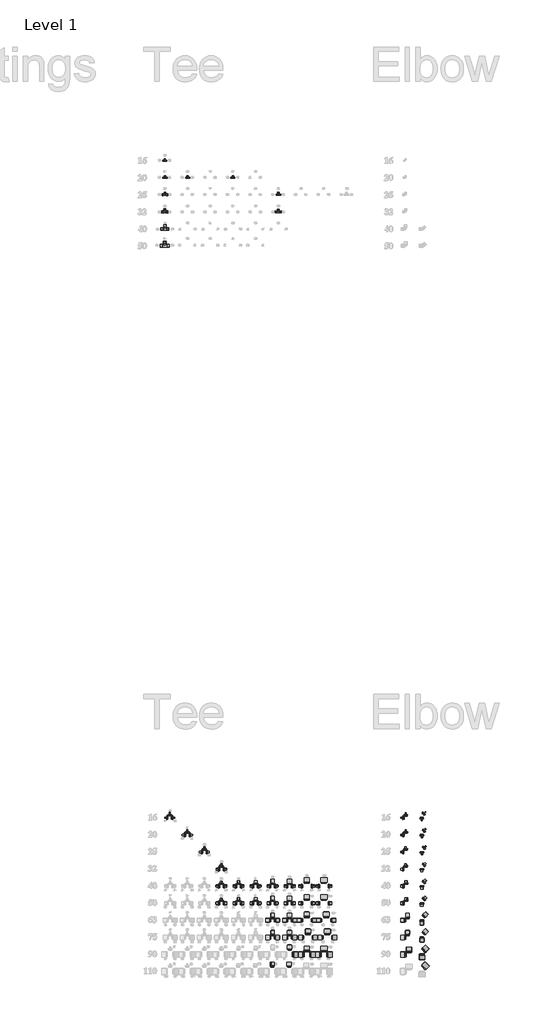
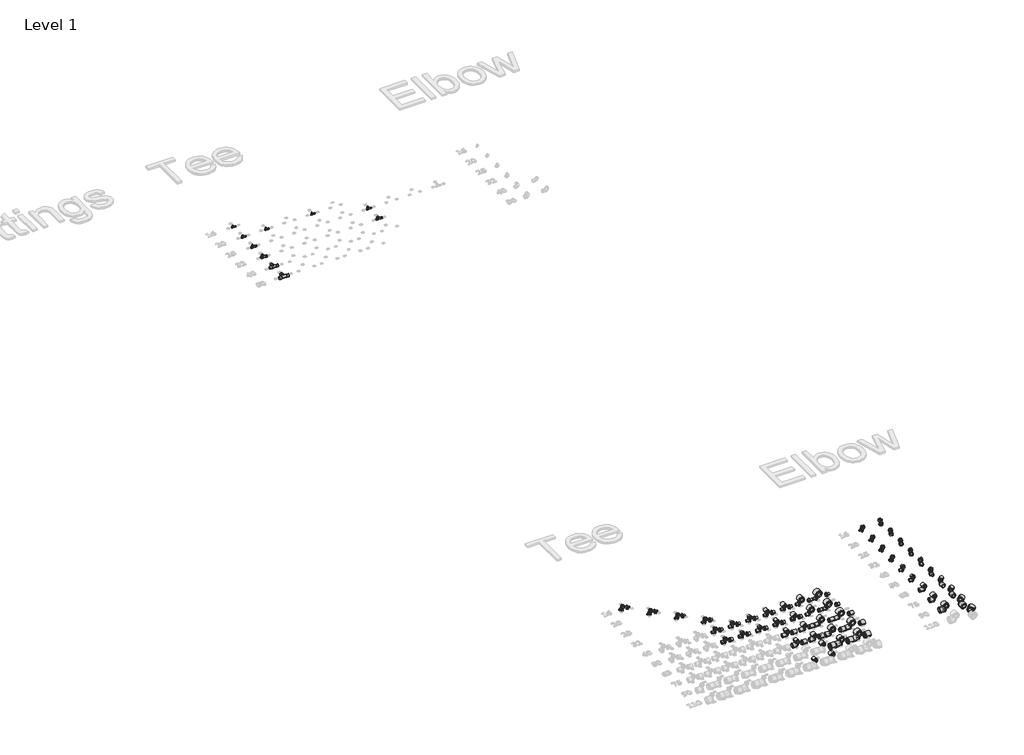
# One storey, part 3 of 57: 135 pipe fittings.
"""IFC4 building model written with IfcOpenShell, lengths in millimetres."""

from ifc_helpers import new_model, si_unit, origin, place, context, project, spatial, transform, mapped, element, save
from components import pipe_fitting_482c86fa, pipe_fitting_a59ca56d, pipe_fitting_b4fce3e0, pipe_fitting_d58233fc, pipe_fitting_b1de520c, pipe_fitting_6f6e23ca, pipe_fitting_bb4a2914, pipe_fitting_49668751, pipe_fitting_361ffb06, pipe_fitting_36832e7d, rs_adapter_8da40ca7, rs_adapter_b4bbd465, rs_adapter_f82712ed, rs_adapter_ef84fdb0, rs_adapter_c6cd646c, rs_adapter_ed761ce0, rs_adapter_634e7d73, rs_adapter_fc67200b, rs_adapter_b700a1d7, rs_adapter_1ad0a11d

model = new_model("IFC4")

# Units and contexts
model_context = context("Model", 3, world=origin())
ifc_project = project(units=[si_unit("LENGTHUNIT", "METRE", prefix="MILLI")], contexts=[model_context])

# Site, building, storey
site = spatial("IfcSite", under=ifc_project)
building = spatial("IfcBuilding", under=site)
storey = spatial("IfcBuildingStorey", under=building, Name="Level 1", Elevation=27.3876384)

# Pipe fittings
placement = place(None, origin())
pipe_fitting_shape = pipe_fitting_482c86fa(model_context)
element("IfcPipeFitting", 1, ObjectType="SuperPipe_Tee_SPressPlus : SuperPipe_Tee_SPressPlus", at=placement, inside=storey, context=model_context, shape_type="MappedRepresentation", body=[
    mapped(pipe_fitting_shape, transform((13172.0630476, 30195.9764109, 27.3876384), x_axis=(-1.0, 0.0, 0.0), y_axis=(0.0, -1.0, 0.0), z_axis=(0.0, 0.0, 1.0))),
])
pipe_fitting_2_shape = pipe_fitting_a59ca56d(model_context)
element("IfcPipeFitting", 2, ObjectType="SuperPipe_Tee_SPressPlus : SuperPipe_Tee_SPressPlus", at=placement, inside=storey, context=model_context, shape_type="MappedRepresentation", body=[
    mapped(pipe_fitting_2_shape, transform((13172.0630476, 29894.8846611, 27.3876384), x_axis=(-1.0, 0.0, 0.0), y_axis=(0.0, -1.0, 0.0), z_axis=(0.0, 0.0, 1.0))),
])
pipe_fitting_3_shape = pipe_fitting_b4fce3e0(model_context)
element("IfcPipeFitting", 3, ObjectType="SuperPipe_Tee_SPressPlus : SuperPipe_Tee_SPressPlus", at=placement, inside=storey, context=model_context, shape_type="MappedRepresentation", body=[
    mapped(pipe_fitting_3_shape, transform((13570.8130476, 29894.8846611, 27.3876384), x_axis=(-1.0, 0.0, 0.0), y_axis=(0.0, -1.0, 0.0), z_axis=(0.0, 0.0, 1.0))),
])
pipe_fitting_4_shape = pipe_fitting_d58233fc(model_context)
element("IfcPipeFitting", 4, ObjectType="SuperPipe_Tee_SPressPlus : SuperPipe_Tee_SPressPlus", at=placement, inside=storey, context=model_context, shape_type="MappedRepresentation", body=[
    mapped(pipe_fitting_4_shape, transform((14368.3130476, 29894.8846611, 27.3876384), x_axis=(-1.0, 0.0, 0.0), y_axis=(0.0, -1.0, 0.0), z_axis=(0.0, 0.0, 1.0))),
])
pipe_fitting_5_shape = pipe_fitting_b1de520c(model_context)
element("IfcPipeFitting", 5, ObjectType="SuperPipe_Tee_SPressPlus : SuperPipe_Tee_SPressPlus", at=placement, inside=storey, context=model_context, shape_type="MappedRepresentation", body=[
    mapped(pipe_fitting_5_shape, transform((13172.0630476, 29595.7013539, 27.3876384), x_axis=(-1.0, 0.0, 0.0), y_axis=(0.0, -1.0, 0.0), z_axis=(0.0, 0.0, 1.0))),
])
pipe_fitting_6_shape = pipe_fitting_6f6e23ca(model_context)
element("IfcPipeFitting", 6, ObjectType="SuperPipe_Tee_SPressPlus : SuperPipe_Tee_SPressPlus", at=placement, inside=storey, context=model_context, shape_type="MappedRepresentation", body=[
    mapped(pipe_fitting_6_shape, transform((15165.8130476, 29595.7013539, 27.3876384), x_axis=(-1.0, 0.0, 0.0), y_axis=(0.0, -1.0, 0.0), z_axis=(0.0, 0.0, 1.0))),
])
pipe_fitting_7_shape = pipe_fitting_bb4a2914(model_context)
element("IfcPipeFitting", 7, ObjectType="SuperPipe_Tee_SPressPlus : SuperPipe_Tee_SPressPlus", at=placement, inside=storey, context=model_context, shape_type="MappedRepresentation", body=[
    mapped(pipe_fitting_7_shape, transform((13172.0630476, 29293.7088254, 27.3876384), x_axis=(-1.0, 0.0, 0.0), y_axis=(0.0, -1.0, 0.0), z_axis=(0.0, 0.0, 1.0))),
])
pipe_fitting_8_shape = pipe_fitting_49668751(model_context)
element("IfcPipeFitting", 8, ObjectType="SuperPipe_Tee_SPressPlus : SuperPipe_Tee_SPressPlus", at=placement, inside=storey, context=model_context, shape_type="MappedRepresentation", body=[
    mapped(pipe_fitting_8_shape, transform((15165.8130476, 29295.7088254, 27.3876384), x_axis=(-1.0, 0.0, 0.0), y_axis=(0.0, -1.0, 0.0), z_axis=(0.0, 0.0, 1.0))),
])
pipe_fitting_9_shape = pipe_fitting_361ffb06(model_context)
element("IfcPipeFitting", 9, ObjectType="SuperPipe_Tee_SPressPlus : SuperPipe_Tee_SPressPlus", at=placement, inside=storey, context=model_context, shape_type="MappedRepresentation", body=[
    mapped(pipe_fitting_9_shape, transform((13172.0630476, 28995.9762969, 27.3876384), x_axis=(-1.0, 0.0, 0.0), y_axis=(0.0, -1.0, 0.0), z_axis=(0.0, 0.0, 1.0))),
])
pipe_fitting_10_shape = pipe_fitting_36832e7d(model_context)
element("IfcPipeFitting", 10, ObjectType="SuperPipe_Tee_SPressPlus : SuperPipe_Tee_SPressPlus", at=placement, inside=storey, context=model_context, shape_type="MappedRepresentation", body=[
    mapped(pipe_fitting_10_shape, transform((13172.0630476, 28695.9737684, 27.3876384), x_axis=(-1.0, 0.0, 0.0), y_axis=(0.0, -1.0, 0.0), z_axis=(0.0, 0.0, 1.0))),
])
rs_adapter_shape = rs_adapter_8da40ca7(model_context)
element("IfcPipeFitting", 11, ObjectType="RS Adapter : Superpipe RS Press Adapter", at=placement, inside=storey, context=model_context, shape_type="MappedRepresentation", body=[
    mapped(rs_adapter_shape, transform((15965.8568613, 16294.8081159, 27.3876384), x_axis=(0.0, 1.0000000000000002, 0.0), y_axis=(1.0000000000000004, 0.0, 0.0), z_axis=(0.0, 0.0, -1.0000000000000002))),
])
element("IfcPipeFitting", 12, ObjectType="RS Adapter : Superpipe RS Press Adapter", at=placement, inside=storey, context=model_context, shape_type="MappedRepresentation", body=[
    mapped(rs_adapter_shape, transform((15965.8568613, 17494.8081159, 27.3876384), x_axis=(0.0, 1.0000000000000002, 0.0), y_axis=(1.0000000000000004, 0.0, 0.0), z_axis=(0.0, 0.0, -1.0000000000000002))),
])
element("IfcPipeFitting", 13, ObjectType="RS Adapter : Superpipe RS Press Adapter", at=placement, inside=storey, context=model_context, shape_type="MappedRepresentation", body=[
    mapped(rs_adapter_shape, transform((15965.8568613, 17194.8081159, 27.3876384), x_axis=(0.0, 1.0000000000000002, 0.0), y_axis=(1.0000000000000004, 0.0, 0.0), z_axis=(0.0, 0.0, -1.0000000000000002))),
])
element("IfcPipeFitting", 14, ObjectType="RS Adapter : Superpipe RS Press Adapter", at=placement, inside=storey, context=model_context, shape_type="MappedRepresentation", body=[
    mapped(rs_adapter_shape, transform((16007.843642, 16894.8081159, 27.3876384), x_axis=(0.0, 1.0000000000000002, 0.0), y_axis=(1.0000000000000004, 0.0, 0.0), z_axis=(0.0, 0.0, -1.0000000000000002))),
])
element("IfcPipeFitting", 15, ObjectType="RS Adapter : Superpipe RS Press Adapter", at=placement, inside=storey, context=model_context, shape_type="MappedRepresentation", body=[
    mapped(rs_adapter_shape, transform((16027.8568613, 16594.8081159, 27.3876384), x_axis=(0.0, 1.0000000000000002, 0.0), y_axis=(1.0000000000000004, 0.0, 0.0), z_axis=(0.0, 0.0, -1.0000000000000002))),
])
element("IfcPipeFitting", 16, ObjectType="RS Adapter : Superpipe RS Press Adapter", at=placement, inside=storey, context=model_context, shape_type="MappedRepresentation", body=[
    mapped(rs_adapter_shape, transform((17713.0198773, 16009.6140039, 27.3876384), x_axis=(0.7071067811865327, 0.707106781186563, 0.0), y_axis=(-0.7071067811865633, 0.707106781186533, 0.0), z_axis=(0.0, 0.0, 1.0000000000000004))),
])
rs_adapter_2_shape = rs_adapter_b4bbd465(model_context)
element("IfcPipeFitting", 17, ObjectType="RS Adapter : Superpipe RS Press Adapter", at=placement, inside=storey, context=model_context, shape_type="MappedRepresentation", body=[
    mapped(rs_adapter_2_shape, transform((13226.6015571, 18650.4212972, 27.3876384), x_axis=(-1.0, 0.0, 0.0), y_axis=(0.0, 1.0, 0.0), z_axis=(0.0, 0.0, -1.0))),
])
element("IfcPipeFitting", 18, ObjectType="RS Adapter : Superpipe RS Press Adapter", at=placement, inside=storey, context=model_context, shape_type="MappedRepresentation", body=[
    mapped(rs_adapter_2_shape, transform((13257.6015571, 18681.4212972, 27.3876384), x_axis=(0.0, 1.0000000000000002, 0.0), y_axis=(1.0000000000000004, 0.0, 0.0), z_axis=(0.0, 0.0, -1.0000000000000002))),
])
element("IfcPipeFitting", 19, ObjectType="RS Adapter : Superpipe RS Press Adapter", at=placement, inside=storey, context=model_context, shape_type="MappedRepresentation", body=[
    mapped(rs_adapter_2_shape, transform((13288.6015571, 18650.4212972, 27.3876384), x_axis=(1.0000000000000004, 0.0, 0.0), y_axis=(0.0, -1.0000000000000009, 0.0), z_axis=(0.0, 0.0, -1.0000000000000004))),
])
element("IfcPipeFitting", 20, ObjectType="RS Adapter : Superpipe RS Press Adapter", at=placement, inside=storey, context=model_context, shape_type="MappedRepresentation", body=[
    mapped(rs_adapter_2_shape, transform((17405.8568613, 18677.8081159, 27.3876384), x_axis=(0.0, 1.000000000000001, 0.0), y_axis=(-1.0000000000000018, 0.0, 0.0), z_axis=(0.0, 0.0, 1.0000000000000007))),
])
element("IfcPipeFitting", 21, ObjectType="RS Adapter : Superpipe RS Press Adapter", at=placement, inside=storey, context=model_context, shape_type="MappedRepresentation", body=[
    mapped(rs_adapter_2_shape, transform((17374.8568613, 18646.8081159, 27.3876384), x_axis=(-1.0000000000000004, 0.0, 0.0), y_axis=(0.0, -1.0000000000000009, 0.0), z_axis=(0.0, 0.0, 1.0000000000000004))),
])
element("IfcPipeFitting", 22, ObjectType="RS Adapter : Superpipe RS Press Adapter", at=placement, inside=storey, context=model_context, shape_type="MappedRepresentation", body=[
    mapped(rs_adapter_2_shape, transform((17685.7955265, 18654.8896532, 27.3876384), x_axis=(0.0, -1.000000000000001, 0.0), y_axis=(1.0000000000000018, 0.0, 0.0), z_axis=(0.0, 0.0, 1.0000000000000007))),
])
element("IfcPipeFitting", 23, ObjectType="RS Adapter : Superpipe RS Press Adapter", at=placement, inside=storey, context=model_context, shape_type="MappedRepresentation", body=[
    mapped(rs_adapter_2_shape, transform((17709.5198773, 18709.6140039, 27.3876384), x_axis=(0.7071067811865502, 0.7071067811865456, 0.0), y_axis=(-0.7071067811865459, 0.7071067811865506, 0.0), z_axis=(0.0, 0.0, 1.0000000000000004))),
])
rs_adapter_3_shape = rs_adapter_f82712ed(model_context)
element("IfcPipeFitting", 24, ObjectType="RS Adapter : Superpipe RS Press Adapter", at=placement, inside=storey, context=model_context, shape_type="MappedRepresentation", body=[
    mapped(rs_adapter_3_shape, transform((13534.8568613, 18346.8081159, 27.3876384), x_axis=(-1.0, 0.0, 0.0), y_axis=(0.0, 1.0, 0.0), z_axis=(0.0, 0.0, -1.0))),
])
element("IfcPipeFitting", 25, ObjectType="RS Adapter : Superpipe RS Press Adapter", at=placement, inside=storey, context=model_context, shape_type="MappedRepresentation", body=[
    mapped(rs_adapter_3_shape, transform((13565.8568613, 18377.8081159, 27.3876384), x_axis=(0.0, 1.0000000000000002, 0.0), y_axis=(1.0000000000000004, 0.0, 0.0), z_axis=(0.0, 0.0, -1.0000000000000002))),
])
element("IfcPipeFitting", 26, ObjectType="RS Adapter : Superpipe RS Press Adapter", at=placement, inside=storey, context=model_context, shape_type="MappedRepresentation", body=[
    mapped(rs_adapter_3_shape, transform((13596.8568613, 18346.8081159, 27.3876384), x_axis=(1.0000000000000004, 0.0, 0.0), y_axis=(0.0, -1.0000000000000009, 0.0), z_axis=(0.0, 0.0, -1.0000000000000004))),
])
element("IfcPipeFitting", 27, ObjectType="RS Adapter : Superpipe RS Press Adapter", at=placement, inside=storey, context=model_context, shape_type="MappedRepresentation", body=[
    mapped(rs_adapter_3_shape, transform((17406.8568613, 18377.8081159, 27.3876384), x_axis=(0.0, 1.000000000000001, 0.0), y_axis=(-1.0000000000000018, 0.0, 0.0), z_axis=(0.0, 0.0, 1.0000000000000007))),
])
element("IfcPipeFitting", 28, ObjectType="RS Adapter : Superpipe RS Press Adapter", at=placement, inside=storey, context=model_context, shape_type="MappedRepresentation", body=[
    mapped(rs_adapter_3_shape, transform((17375.8568613, 18346.8081159, 27.3876384), x_axis=(-1.0000000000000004, 0.0, 0.0), y_axis=(0.0, -1.0000000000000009, 0.0), z_axis=(0.0, 0.0, 1.0000000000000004))),
])
element("IfcPipeFitting", 29, ObjectType="RS Adapter : Superpipe RS Press Adapter", at=placement, inside=storey, context=model_context, shape_type="MappedRepresentation", body=[
    mapped(rs_adapter_3_shape, transform((17689.2955265, 18354.8896532, 27.3876384), x_axis=(0.0, -1.000000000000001, 0.0), y_axis=(1.0000000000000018, 0.0, 0.0), z_axis=(0.0, 0.0, 1.0000000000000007))),
])
element("IfcPipeFitting", 30, ObjectType="RS Adapter : Superpipe RS Press Adapter", at=placement, inside=storey, context=model_context, shape_type="MappedRepresentation", body=[
    mapped(rs_adapter_3_shape, transform((17713.0198773, 18409.6140039, 27.3876384), x_axis=(0.7071067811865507, 0.7071067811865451, 0.0), y_axis=(-0.7071067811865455, 0.707106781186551, 0.0), z_axis=(0.0, 0.0, 1.0000000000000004))),
])
rs_adapter_4_shape = rs_adapter_ef84fdb0(model_context)
element("IfcPipeFitting", 31, ObjectType="RS Adapter : Superpipe RS Press Adapter", at=placement, inside=storey, context=model_context, shape_type="MappedRepresentation", body=[
    mapped(rs_adapter_4_shape, transform((13834.8568613, 18046.8081159, 27.3876384), x_axis=(-1.0, 0.0, 0.0), y_axis=(0.0, 1.0, 0.0), z_axis=(0.0, 0.0, -1.0))),
])
element("IfcPipeFitting", 32, ObjectType="RS Adapter : Superpipe RS Press Adapter", at=placement, inside=storey, context=model_context, shape_type="MappedRepresentation", body=[
    mapped(rs_adapter_4_shape, transform((13865.8568613, 18077.8081159, 27.3876384), x_axis=(0.0, 1.0000000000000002, 0.0), y_axis=(1.0000000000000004, 0.0, 0.0), z_axis=(0.0, 0.0, -1.0000000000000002))),
])
element("IfcPipeFitting", 33, ObjectType="RS Adapter : Superpipe RS Press Adapter", at=placement, inside=storey, context=model_context, shape_type="MappedRepresentation", body=[
    mapped(rs_adapter_4_shape, transform((13896.8568613, 18046.8081159, 27.3876384), x_axis=(1.0000000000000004, 0.0, 0.0), y_axis=(0.0, -1.0000000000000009, 0.0), z_axis=(0.0, 0.0, -1.0000000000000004))),
])
element("IfcPipeFitting", 34, ObjectType="RS Adapter : Superpipe RS Press Adapter", at=placement, inside=storey, context=model_context, shape_type="MappedRepresentation", body=[
    mapped(rs_adapter_4_shape, transform((17403.8568613, 18077.8081159, 27.3876384), x_axis=(0.0, 1.000000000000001, 0.0), y_axis=(-1.0000000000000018, 0.0, 0.0), z_axis=(0.0, 0.0, 1.0000000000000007))),
])
element("IfcPipeFitting", 35, ObjectType="RS Adapter : Superpipe RS Press Adapter", at=placement, inside=storey, context=model_context, shape_type="MappedRepresentation", body=[
    mapped(rs_adapter_4_shape, transform((17372.8568613, 18046.8081159, 27.3876384), x_axis=(-1.0000000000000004, 0.0, 0.0), y_axis=(0.0, -1.0000000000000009, 0.0), z_axis=(0.0, 0.0, 1.0000000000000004))),
])
element("IfcPipeFitting", 36, ObjectType="RS Adapter : Superpipe RS Press Adapter", at=placement, inside=storey, context=model_context, shape_type="MappedRepresentation", body=[
    mapped(rs_adapter_4_shape, transform((17689.2955265, 18054.8896532, 27.3876384), x_axis=(0.0, -1.0000000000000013, 0.0), y_axis=(1.0000000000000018, 0.0, 0.0), z_axis=(0.0, 0.0, 1.0000000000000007))),
])
element("IfcPipeFitting", 37, ObjectType="RS Adapter : Superpipe RS Press Adapter", at=placement, inside=storey, context=model_context, shape_type="MappedRepresentation", body=[
    mapped(rs_adapter_4_shape, transform((17713.0198773, 18109.6140039, 27.3876384), x_axis=(0.7071067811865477, 0.7071067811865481, 0.0), y_axis=(-0.7071067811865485, 0.707106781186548, 0.0), z_axis=(0.0, 0.0, 1.0000000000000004))),
])
rs_adapter_5_shape = rs_adapter_c6cd646c(model_context)
element("IfcPipeFitting", 38, ObjectType="RS Adapter : Superpipe RS Press Adapter", at=placement, inside=storey, context=model_context, shape_type="MappedRepresentation", body=[
    mapped(rs_adapter_5_shape, transform((15413.8568613, 16246.8081159, 27.3876384), x_axis=(1.0000000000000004, 0.0, 0.0), y_axis=(0.0, -1.0000000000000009, 0.0), z_axis=(0.0, 0.0, -1.0000000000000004))),
])
element("IfcPipeFitting", 39, ObjectType="RS Adapter : Superpipe RS Press Adapter", at=placement, inside=storey, context=model_context, shape_type="MappedRepresentation", body=[
    mapped(rs_adapter_5_shape, transform((15617.8568613, 16246.8081159, 27.3876384), x_axis=(-1.0, 0.0, 0.0), y_axis=(0.0, 1.0, 0.0), z_axis=(0.0, 0.0, -1.0))),
])
element("IfcPipeFitting", 40, ObjectType="RS Adapter : Superpipe RS Press Adapter", at=placement, inside=storey, context=model_context, shape_type="MappedRepresentation", body=[
    mapped(rs_adapter_5_shape, transform((15665.8568613, 16294.8081159, 27.3876384), x_axis=(0.0, 1.0000000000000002, 0.0), y_axis=(1.0000000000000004, 0.0, 0.0), z_axis=(0.0, 0.0, -1.0000000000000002))),
])
element("IfcPipeFitting", 41, ObjectType="RS Adapter : Superpipe RS Press Adapter", at=placement, inside=storey, context=model_context, shape_type="MappedRepresentation", body=[
    mapped(rs_adapter_5_shape, transform((15713.8568613, 16246.8081159, 27.3876384), x_axis=(1.0000000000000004, 0.0, 0.0), y_axis=(0.0, -1.0000000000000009, 0.0), z_axis=(0.0, 0.0, -1.0000000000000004))),
])
element("IfcPipeFitting", 42, ObjectType="RS Adapter : Superpipe RS Press Adapter", at=placement, inside=storey, context=model_context, shape_type="MappedRepresentation", body=[
    mapped(rs_adapter_5_shape, transform((15917.8568613, 16246.8081159, 27.3876384), x_axis=(-1.0, 0.0, 0.0), y_axis=(0.0, 1.0, 0.0), z_axis=(0.0, 0.0, -1.0))),
])
element("IfcPipeFitting", 43, ObjectType="RS Adapter : Superpipe RS Press Adapter", at=placement, inside=storey, context=model_context, shape_type="MappedRepresentation", body=[
    mapped(rs_adapter_5_shape, transform((16013.8568613, 16246.8081159, 27.3876384), x_axis=(1.0000000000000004, 0.0, 0.0), y_axis=(0.0, -1.0000000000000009, 0.0), z_axis=(0.0, 0.0, -1.0000000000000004))),
])
element("IfcPipeFitting", 44, ObjectType="RS Adapter : Superpipe RS Press Adapter", at=placement, inside=storey, context=model_context, shape_type="MappedRepresentation", body=[
    mapped(rs_adapter_5_shape, transform((15685.8568613, 16594.8081159, 27.3876384), x_axis=(0.0, 1.0000000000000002, 0.0), y_axis=(1.0000000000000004, 0.0, 0.0), z_axis=(0.0, 0.0, -1.0000000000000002))),
])
element("IfcPipeFitting", 45, ObjectType="RS Adapter : Superpipe RS Press Adapter", at=placement, inside=storey, context=model_context, shape_type="MappedRepresentation", body=[
    mapped(rs_adapter_5_shape, transform((15665.8568613, 17494.8081159, 27.3876384), x_axis=(0.0, 1.0000000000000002, 0.0), y_axis=(1.0000000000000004, 0.0, 0.0), z_axis=(0.0, 0.0, -1.0000000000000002))),
])
element("IfcPipeFitting", 46, ObjectType="RS Adapter : Superpipe RS Press Adapter", at=placement, inside=storey, context=model_context, shape_type="MappedRepresentation", body=[
    mapped(rs_adapter_5_shape, transform((15665.8568613, 17194.8081159, 27.3876384), x_axis=(0.0, 1.0000000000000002, 0.0), y_axis=(1.0000000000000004, 0.0, 0.0), z_axis=(0.0, 0.0, -1.0000000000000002))),
])
element("IfcPipeFitting", 47, ObjectType="RS Adapter : Superpipe RS Press Adapter", at=placement, inside=storey, context=model_context, shape_type="MappedRepresentation", body=[
    mapped(rs_adapter_5_shape, transform((15665.8568613, 16894.8081159, 27.3876384), x_axis=(0.0, 1.0000000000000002, 0.0), y_axis=(1.0000000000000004, 0.0, 0.0), z_axis=(0.0, 0.0, -1.0000000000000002))),
])
element("IfcPipeFitting", 48, ObjectType="RS Adapter : Superpipe RS Press Adapter", at=placement, inside=storey, context=model_context, shape_type="MappedRepresentation", body=[
    mapped(rs_adapter_5_shape, transform((17461.3568613, 16277.8081159, 27.3876384), x_axis=(0.0, 1.000000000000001, 0.0), y_axis=(-1.0000000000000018, 0.0, 0.0), z_axis=(0.0, 0.0, 1.0000000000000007))),
])
element("IfcPipeFitting", 49, ObjectType="RS Adapter : Superpipe RS Press Adapter", at=placement, inside=storey, context=model_context, shape_type="MappedRepresentation", body=[
    mapped(rs_adapter_5_shape, transform((17413.3568613, 16246.8081159, 27.3876384), x_axis=(-1.0000000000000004, 0.0, 0.0), y_axis=(0.0, -1.0000000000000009, 0.0), z_axis=(0.0, 0.0, 1.0000000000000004))),
])
element("IfcPipeFitting", 50, ObjectType="RS Adapter : Superpipe RS Press Adapter", at=placement, inside=storey, context=model_context, shape_type="MappedRepresentation", body=[
    mapped(rs_adapter_5_shape, transform((17689.2955265, 16254.8896532, 27.3876384), x_axis=(0.0, -1.000000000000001, 0.0), y_axis=(1.0000000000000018, 0.0, 0.0), z_axis=(0.0, 0.0, 1.0000000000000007))),
])
element("IfcPipeFitting", 51, ObjectType="RS Adapter : Superpipe RS Press Adapter", at=placement, inside=storey, context=model_context, shape_type="MappedRepresentation", body=[
    mapped(rs_adapter_5_shape, transform((17713.0198773, 16309.6140039, 27.3876384), x_axis=(0.7071067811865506, 0.7071067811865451, 0.0), y_axis=(-0.7071067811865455, 0.7071067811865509, 0.0), z_axis=(0.0, 0.0, 1.0000000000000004))),
])
rs_adapter_6_shape = rs_adapter_ed761ce0(model_context)
element("IfcPipeFitting", 52, ObjectType="RS Adapter : Superpipe RS Press Adapter", at=placement, inside=storey, context=model_context, shape_type="MappedRepresentation", body=[
    mapped(rs_adapter_6_shape, transform((14134.8568613, 17746.8081159, 27.3876384), x_axis=(-1.0, 0.0, 0.0), y_axis=(0.0, 1.0, 0.0), z_axis=(0.0, 0.0, -1.0))),
])
element("IfcPipeFitting", 53, ObjectType="RS Adapter : Superpipe RS Press Adapter", at=placement, inside=storey, context=model_context, shape_type="MappedRepresentation", body=[
    mapped(rs_adapter_6_shape, transform((14165.8568613, 17777.8081159, 27.3876384), x_axis=(0.0, 1.0000000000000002, 0.0), y_axis=(1.0000000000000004, 0.0, 0.0), z_axis=(0.0, 0.0, -1.0000000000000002))),
])
element("IfcPipeFitting", 54, ObjectType="RS Adapter : Superpipe RS Press Adapter", at=placement, inside=storey, context=model_context, shape_type="MappedRepresentation", body=[
    mapped(rs_adapter_6_shape, transform((14196.8568613, 17746.8081159, 27.3876384), x_axis=(1.0000000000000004, 0.0, 0.0), y_axis=(0.0, -1.0000000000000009, 0.0), z_axis=(0.0, 0.0, -1.0000000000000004))),
])
element("IfcPipeFitting", 55, ObjectType="RS Adapter : Superpipe RS Press Adapter", at=placement, inside=storey, context=model_context, shape_type="MappedRepresentation", body=[
    mapped(rs_adapter_6_shape, transform((14165.8568613, 17477.8081159, 27.3876384), x_axis=(0.0, 1.0000000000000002, 0.0), y_axis=(1.0000000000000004, 0.0, 0.0), z_axis=(0.0, 0.0, -1.0000000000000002))),
])
element("IfcPipeFitting", 56, ObjectType="RS Adapter : Superpipe RS Press Adapter", at=placement, inside=storey, context=model_context, shape_type="MappedRepresentation", body=[
    mapped(rs_adapter_6_shape, transform((14165.8568613, 17177.8081159, 27.3876384), x_axis=(0.0, 1.0000000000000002, 0.0), y_axis=(1.0000000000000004, 0.0, 0.0), z_axis=(0.0, 0.0, -1.0000000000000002))),
])
element("IfcPipeFitting", 57, ObjectType="RS Adapter : Superpipe RS Press Adapter", at=placement, inside=storey, context=model_context, shape_type="MappedRepresentation", body=[
    mapped(rs_adapter_6_shape, transform((17403.8568613, 17777.8081159, 27.3876384), x_axis=(0.0, 1.000000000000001, 0.0), y_axis=(-1.0000000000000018, 0.0, 0.0), z_axis=(0.0, 0.0, 1.0000000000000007))),
])
element("IfcPipeFitting", 58, ObjectType="RS Adapter : Superpipe RS Press Adapter", at=placement, inside=storey, context=model_context, shape_type="MappedRepresentation", body=[
    mapped(rs_adapter_6_shape, transform((17372.8568613, 17746.8081159, 27.3876384), x_axis=(-1.0000000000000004, 0.0, 0.0), y_axis=(0.0, -1.0000000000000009, 0.0), z_axis=(0.0, 0.0, 1.0000000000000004))),
])
element("IfcPipeFitting", 59, ObjectType="RS Adapter : Superpipe RS Press Adapter", at=placement, inside=storey, context=model_context, shape_type="MappedRepresentation", body=[
    mapped(rs_adapter_6_shape, transform((17689.2955265, 17754.8896532, 27.3876384), x_axis=(0.0, -1.000000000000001, 0.0), y_axis=(1.0000000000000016, 0.0, 0.0), z_axis=(0.0, 0.0, 1.0000000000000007))),
])
element("IfcPipeFitting", 60, ObjectType="RS Adapter : Superpipe RS Press Adapter", at=placement, inside=storey, context=model_context, shape_type="MappedRepresentation", body=[
    mapped(rs_adapter_6_shape, transform((17713.0198773, 17809.6140039, 27.3876384), x_axis=(0.7071067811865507, 0.707106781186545, 0.0), y_axis=(-0.7071067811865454, 0.707106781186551, 0.0), z_axis=(0.0, 0.0, 1.0000000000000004))),
])
rs_adapter_7_shape = rs_adapter_634e7d73(model_context)
element("IfcPipeFitting", 61, ObjectType="RS Adapter : Superpipe RS Press Adapter", at=placement, inside=storey, context=model_context, shape_type="MappedRepresentation", body=[
    mapped(rs_adapter_7_shape, transform((14434.8568613, 17446.8081159, 27.3876384), x_axis=(-1.0, 0.0, 0.0), y_axis=(0.0, 1.0, 0.0), z_axis=(0.0, 0.0, -1.0))),
])
element("IfcPipeFitting", 62, ObjectType="RS Adapter : Superpipe RS Press Adapter", at=placement, inside=storey, context=model_context, shape_type="MappedRepresentation", body=[
    mapped(rs_adapter_7_shape, transform((14465.8568613, 17477.8081159, 27.3876384), x_axis=(0.0, 1.0000000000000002, 0.0), y_axis=(1.0000000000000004, 0.0, 0.0), z_axis=(0.0, 0.0, -1.0000000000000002))),
])
element("IfcPipeFitting", 63, ObjectType="RS Adapter : Superpipe RS Press Adapter", at=placement, inside=storey, context=model_context, shape_type="MappedRepresentation", body=[
    mapped(rs_adapter_7_shape, transform((14496.8568613, 17446.8081159, 27.3876384), x_axis=(1.0000000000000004, 0.0, 0.0), y_axis=(0.0, -1.0000000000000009, 0.0), z_axis=(0.0, 0.0, -1.0000000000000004))),
])
element("IfcPipeFitting", 64, ObjectType="RS Adapter : Superpipe RS Press Adapter", at=placement, inside=storey, context=model_context, shape_type="MappedRepresentation", body=[
    mapped(rs_adapter_7_shape, transform((14134.8568613, 17446.8081159, 27.3876384), x_axis=(-1.0, 0.0, 0.0), y_axis=(0.0, 1.0, 0.0), z_axis=(0.0, 0.0, -1.0))),
])
element("IfcPipeFitting", 65, ObjectType="RS Adapter : Superpipe RS Press Adapter", at=placement, inside=storey, context=model_context, shape_type="MappedRepresentation", body=[
    mapped(rs_adapter_7_shape, transform((14196.8568613, 17446.8081159, 27.3876384), x_axis=(1.0000000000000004, 0.0, 0.0), y_axis=(0.0, -1.0000000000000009, 0.0), z_axis=(0.0, 0.0, -1.0000000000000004))),
])
element("IfcPipeFitting", 66, ObjectType="RS Adapter : Superpipe RS Press Adapter", at=placement, inside=storey, context=model_context, shape_type="MappedRepresentation", body=[
    mapped(rs_adapter_7_shape, transform((14734.8568613, 17446.8081159, 27.3876384), x_axis=(-1.0, 0.0, 0.0), y_axis=(0.0, 1.0, 0.0), z_axis=(0.0, 0.0, -1.0))),
])
element("IfcPipeFitting", 67, ObjectType="RS Adapter : Superpipe RS Press Adapter", at=placement, inside=storey, context=model_context, shape_type="MappedRepresentation", body=[
    mapped(rs_adapter_7_shape, transform((14796.8568613, 17446.8081159, 27.3876384), x_axis=(1.0000000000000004, 0.0, 0.0), y_axis=(0.0, -1.0000000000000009, 0.0), z_axis=(0.0, 0.0, -1.0000000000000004))),
])
element("IfcPipeFitting", 68, ObjectType="RS Adapter : Superpipe RS Press Adapter", at=placement, inside=storey, context=model_context, shape_type="MappedRepresentation", body=[
    mapped(rs_adapter_7_shape, transform((15034.8568613, 17446.8081159, 27.3876384), x_axis=(-1.0, 0.0, 0.0), y_axis=(0.0, 1.0, 0.0), z_axis=(0.0, 0.0, -1.0))),
])
element("IfcPipeFitting", 69, ObjectType="RS Adapter : Superpipe RS Press Adapter", at=placement, inside=storey, context=model_context, shape_type="MappedRepresentation", body=[
    mapped(rs_adapter_7_shape, transform((15096.8568613, 17446.8081159, 27.3876384), x_axis=(1.0000000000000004, 0.0, 0.0), y_axis=(0.0, -1.0000000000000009, 0.0), z_axis=(0.0, 0.0, -1.0000000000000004))),
])
element("IfcPipeFitting", 70, ObjectType="RS Adapter : Superpipe RS Press Adapter", at=placement, inside=storey, context=model_context, shape_type="MappedRepresentation", body=[
    mapped(rs_adapter_7_shape, transform((15334.8568613, 17446.8081159, 27.3876384), x_axis=(-1.0, 0.0, 0.0), y_axis=(0.0, 1.0, 0.0), z_axis=(0.0, 0.0, -1.0))),
])
element("IfcPipeFitting", 71, ObjectType="RS Adapter : Superpipe RS Press Adapter", at=placement, inside=storey, context=model_context, shape_type="MappedRepresentation", body=[
    mapped(rs_adapter_7_shape, transform((15396.8568613, 17446.8081159, 27.3876384), x_axis=(1.0000000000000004, 0.0, 0.0), y_axis=(0.0, -1.0000000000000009, 0.0), z_axis=(0.0, 0.0, -1.0000000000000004))),
])
element("IfcPipeFitting", 72, ObjectType="RS Adapter : Superpipe RS Press Adapter", at=placement, inside=storey, context=model_context, shape_type="MappedRepresentation", body=[
    mapped(rs_adapter_7_shape, transform((15590.8568613, 17446.8081159, 27.3876384), x_axis=(-1.0, 0.0, 0.0), y_axis=(0.0, 1.0, 0.0), z_axis=(0.0, 0.0, -1.0))),
])
element("IfcPipeFitting", 73, ObjectType="RS Adapter : Superpipe RS Press Adapter", at=placement, inside=storey, context=model_context, shape_type="MappedRepresentation", body=[
    mapped(rs_adapter_7_shape, transform((15740.8568613, 17446.8081159, 27.3876384), x_axis=(1.0000000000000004, 0.0, 0.0), y_axis=(0.0, -1.0000000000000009, 0.0), z_axis=(0.0, 0.0, -1.0000000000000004))),
])
element("IfcPipeFitting", 74, ObjectType="RS Adapter : Superpipe RS Press Adapter", at=placement, inside=storey, context=model_context, shape_type="MappedRepresentation", body=[
    mapped(rs_adapter_7_shape, transform((15890.8568613, 17446.8081159, 27.3876384), x_axis=(-1.0, 0.0, 0.0), y_axis=(0.0, 1.0, 0.0), z_axis=(0.0, 0.0, -1.0))),
])
element("IfcPipeFitting", 75, ObjectType="RS Adapter : Superpipe RS Press Adapter", at=placement, inside=storey, context=model_context, shape_type="MappedRepresentation", body=[
    mapped(rs_adapter_7_shape, transform((16040.8568613, 17446.8081159, 27.3876384), x_axis=(1.0000000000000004, 0.0, 0.0), y_axis=(0.0, -1.0000000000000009, 0.0), z_axis=(0.0, 0.0, -1.0000000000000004))),
])
element("IfcPipeFitting", 76, ObjectType="RS Adapter : Superpipe RS Press Adapter", at=placement, inside=storey, context=model_context, shape_type="MappedRepresentation", body=[
    mapped(rs_adapter_7_shape, transform((14465.8568613, 17177.8081159, 27.3876384), x_axis=(0.0, 1.0000000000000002, 0.0), y_axis=(1.0000000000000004, 0.0, 0.0), z_axis=(0.0, 0.0, -1.0000000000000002))),
])
element("IfcPipeFitting", 77, ObjectType="RS Adapter : Superpipe RS Press Adapter", at=placement, inside=storey, context=model_context, shape_type="MappedRepresentation", body=[
    mapped(rs_adapter_7_shape, transform((17409.8568613, 17477.8081159, 27.3876384), x_axis=(0.0, 1.000000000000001, 0.0), y_axis=(-1.0000000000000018, 0.0, 0.0), z_axis=(0.0, 0.0, 1.0000000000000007))),
])
element("IfcPipeFitting", 78, ObjectType="RS Adapter : Superpipe RS Press Adapter", at=placement, inside=storey, context=model_context, shape_type="MappedRepresentation", body=[
    mapped(rs_adapter_7_shape, transform((17378.8568613, 17446.8081159, 27.3876384), x_axis=(-1.0000000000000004, 0.0, 0.0), y_axis=(0.0, -1.0000000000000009, 0.0), z_axis=(0.0, 0.0, 1.0000000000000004))),
])
element("IfcPipeFitting", 79, ObjectType="RS Adapter : Superpipe RS Press Adapter", at=placement, inside=storey, context=model_context, shape_type="MappedRepresentation", body=[
    mapped(rs_adapter_7_shape, transform((17689.2955265, 17454.8896532, 27.3876384), x_axis=(0.0, -1.000000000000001, 0.0), y_axis=(1.0000000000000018, 0.0, 0.0), z_axis=(0.0, 0.0, 1.0000000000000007))),
])
element("IfcPipeFitting", 80, ObjectType="RS Adapter : Superpipe RS Press Adapter", at=placement, inside=storey, context=model_context, shape_type="MappedRepresentation", body=[
    mapped(rs_adapter_7_shape, transform((17713.0198773, 17509.6140039, 27.3876384), x_axis=(0.7071067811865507, 0.7071067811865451, 0.0), y_axis=(-0.7071067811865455, 0.707106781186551, 0.0), z_axis=(0.0, 0.0, 1.0000000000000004))),
])
rs_adapter_8_shape = rs_adapter_fc67200b(model_context)
element("IfcPipeFitting", 81, ObjectType="RS Adapter : Superpipe RS Press Adapter", at=placement, inside=storey, context=model_context, shape_type="MappedRepresentation", body=[
    mapped(rs_adapter_8_shape, transform((14734.8568613, 17146.8081159, 27.3876384), x_axis=(-1.0, 0.0, 0.0), y_axis=(0.0, 1.0, 0.0), z_axis=(0.0, 0.0, -1.0))),
])
element("IfcPipeFitting", 82, ObjectType="RS Adapter : Superpipe RS Press Adapter", at=placement, inside=storey, context=model_context, shape_type="MappedRepresentation", body=[
    mapped(rs_adapter_8_shape, transform((14765.8568613, 17177.8081159, 27.3876384), x_axis=(0.0, 1.0000000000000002, 0.0), y_axis=(1.0000000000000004, 0.0, 0.0), z_axis=(0.0, 0.0, -1.0000000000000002))),
])
element("IfcPipeFitting", 83, ObjectType="RS Adapter : Superpipe RS Press Adapter", at=placement, inside=storey, context=model_context, shape_type="MappedRepresentation", body=[
    mapped(rs_adapter_8_shape, transform((14796.8568613, 17146.8081159, 27.3876384), x_axis=(1.0000000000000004, 0.0, 0.0), y_axis=(0.0, -1.0000000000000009, 0.0), z_axis=(0.0, 0.0, -1.0000000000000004))),
])
element("IfcPipeFitting", 84, ObjectType="RS Adapter : Superpipe RS Press Adapter", at=placement, inside=storey, context=model_context, shape_type="MappedRepresentation", body=[
    mapped(rs_adapter_8_shape, transform((14765.8568613, 17477.8081159, 27.3876384), x_axis=(0.0, 1.0000000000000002, 0.0), y_axis=(1.0000000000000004, 0.0, 0.0), z_axis=(0.0, 0.0, -1.0000000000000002))),
])
element("IfcPipeFitting", 85, ObjectType="RS Adapter : Superpipe RS Press Adapter", at=placement, inside=storey, context=model_context, shape_type="MappedRepresentation", body=[
    mapped(rs_adapter_8_shape, transform((14134.8568613, 17146.8081159, 27.3876384), x_axis=(-1.0, 0.0, 0.0), y_axis=(0.0, 1.0, 0.0), z_axis=(0.0, 0.0, -1.0))),
])
element("IfcPipeFitting", 86, ObjectType="RS Adapter : Superpipe RS Press Adapter", at=placement, inside=storey, context=model_context, shape_type="MappedRepresentation", body=[
    mapped(rs_adapter_8_shape, transform((14196.8568613, 17146.8081159, 27.3876384), x_axis=(1.0000000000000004, 0.0, 0.0), y_axis=(0.0, -1.0000000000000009, 0.0), z_axis=(0.0, 0.0, -1.0000000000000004))),
])
element("IfcPipeFitting", 87, ObjectType="RS Adapter : Superpipe RS Press Adapter", at=placement, inside=storey, context=model_context, shape_type="MappedRepresentation", body=[
    mapped(rs_adapter_8_shape, transform((14434.8568613, 17146.8081159, 27.3876384), x_axis=(-1.0, 0.0, 0.0), y_axis=(0.0, 1.0, 0.0), z_axis=(0.0, 0.0, -1.0))),
])
element("IfcPipeFitting", 88, ObjectType="RS Adapter : Superpipe RS Press Adapter", at=placement, inside=storey, context=model_context, shape_type="MappedRepresentation", body=[
    mapped(rs_adapter_8_shape, transform((14496.8568613, 17146.8081159, 27.3876384), x_axis=(1.0000000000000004, 0.0, 0.0), y_axis=(0.0, -1.0000000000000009, 0.0), z_axis=(0.0, 0.0, -1.0000000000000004))),
])
element("IfcPipeFitting", 89, ObjectType="RS Adapter : Superpipe RS Press Adapter", at=placement, inside=storey, context=model_context, shape_type="MappedRepresentation", body=[
    mapped(rs_adapter_8_shape, transform((15034.8568613, 17146.8081159, 27.3876384), x_axis=(-1.0, 0.0, 0.0), y_axis=(0.0, 1.0, 0.0), z_axis=(0.0, 0.0, -1.0))),
])
element("IfcPipeFitting", 90, ObjectType="RS Adapter : Superpipe RS Press Adapter", at=placement, inside=storey, context=model_context, shape_type="MappedRepresentation", body=[
    mapped(rs_adapter_8_shape, transform((15096.8568613, 17146.8081159, 27.3876384), x_axis=(1.0000000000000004, 0.0, 0.0), y_axis=(0.0, -1.0000000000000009, 0.0), z_axis=(0.0, 0.0, -1.0000000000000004))),
])
element("IfcPipeFitting", 91, ObjectType="RS Adapter : Superpipe RS Press Adapter", at=placement, inside=storey, context=model_context, shape_type="MappedRepresentation", body=[
    mapped(rs_adapter_8_shape, transform((15334.8568613, 17146.8081159, 27.3876384), x_axis=(-1.0, 0.0, 0.0), y_axis=(0.0, 1.0, 0.0), z_axis=(0.0, 0.0, -1.0))),
])
element("IfcPipeFitting", 92, ObjectType="RS Adapter : Superpipe RS Press Adapter", at=placement, inside=storey, context=model_context, shape_type="MappedRepresentation", body=[
    mapped(rs_adapter_8_shape, transform((15396.8568613, 17146.8081159, 27.3876384), x_axis=(1.0000000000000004, 0.0, 0.0), y_axis=(0.0, -1.0000000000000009, 0.0), z_axis=(0.0, 0.0, -1.0000000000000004))),
])
element("IfcPipeFitting", 93, ObjectType="RS Adapter : Superpipe RS Press Adapter", at=placement, inside=storey, context=model_context, shape_type="MappedRepresentation", body=[
    mapped(rs_adapter_8_shape, transform((15590.8568613, 17146.8081159, 27.3876384), x_axis=(-1.0, 0.0, 0.0), y_axis=(0.0, 1.0, 0.0), z_axis=(0.0, 0.0, -1.0))),
])
element("IfcPipeFitting", 94, ObjectType="RS Adapter : Superpipe RS Press Adapter", at=placement, inside=storey, context=model_context, shape_type="MappedRepresentation", body=[
    mapped(rs_adapter_8_shape, transform((15740.8568613, 17146.8081159, 27.3876384), x_axis=(1.0000000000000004, 0.0, 0.0), y_axis=(0.0, -1.0000000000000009, 0.0), z_axis=(0.0, 0.0, -1.0000000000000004))),
])
element("IfcPipeFitting", 95, ObjectType="RS Adapter : Superpipe RS Press Adapter", at=placement, inside=storey, context=model_context, shape_type="MappedRepresentation", body=[
    mapped(rs_adapter_8_shape, transform((15890.8568613, 17146.8081159, 27.3876384), x_axis=(-1.0, 0.0, 0.0), y_axis=(0.0, 1.0, 0.0), z_axis=(0.0, 0.0, -1.0))),
])
element("IfcPipeFitting", 96, ObjectType="RS Adapter : Superpipe RS Press Adapter", at=placement, inside=storey, context=model_context, shape_type="MappedRepresentation", body=[
    mapped(rs_adapter_8_shape, transform((16040.8568613, 17146.8081159, 27.3876384), x_axis=(1.0000000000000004, 0.0, 0.0), y_axis=(0.0, -1.0000000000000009, 0.0), z_axis=(0.0, 0.0, -1.0000000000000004))),
])
element("IfcPipeFitting", 97, ObjectType="RS Adapter : Superpipe RS Press Adapter", at=placement, inside=storey, context=model_context, shape_type="MappedRepresentation", body=[
    mapped(rs_adapter_8_shape, transform((17409.8568613, 17177.8081159, 27.3876384), x_axis=(0.0, 1.000000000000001, 0.0), y_axis=(-1.0000000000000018, 0.0, 0.0), z_axis=(0.0, 0.0, 1.0000000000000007))),
])
element("IfcPipeFitting", 98, ObjectType="RS Adapter : Superpipe RS Press Adapter", at=placement, inside=storey, context=model_context, shape_type="MappedRepresentation", body=[
    mapped(rs_adapter_8_shape, transform((17378.8568613, 17146.8081159, 27.3876384), x_axis=(-1.0000000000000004, 0.0, 0.0), y_axis=(0.0, -1.0000000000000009, 0.0), z_axis=(0.0, 0.0, 1.0000000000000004))),
])
element("IfcPipeFitting", 99, ObjectType="RS Adapter : Superpipe RS Press Adapter", at=placement, inside=storey, context=model_context, shape_type="MappedRepresentation", body=[
    mapped(rs_adapter_8_shape, transform((17689.2955265, 17154.8896532, 27.3876384), x_axis=(0.0, -1.0000000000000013, 0.0), y_axis=(1.0000000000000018, 0.0, 0.0), z_axis=(0.0, 0.0, 1.0000000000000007))),
])
element("IfcPipeFitting", 100, ObjectType="RS Adapter : Superpipe RS Press Adapter", at=placement, inside=storey, context=model_context, shape_type="MappedRepresentation", body=[
    mapped(rs_adapter_8_shape, transform((17713.0198773, 17209.6140039, 27.3876384), x_axis=(0.7071067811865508, 0.707106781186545, 0.0), y_axis=(-0.7071067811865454, 0.7071067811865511, 0.0), z_axis=(0.0, 0.0, 1.0000000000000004))),
])
rs_adapter_9_shape = rs_adapter_b700a1d7(model_context)
element("IfcPipeFitting", 101, ObjectType="RS Adapter : Superpipe RS Press Adapter", at=placement, inside=storey, context=model_context, shape_type="MappedRepresentation", body=[
    mapped(rs_adapter_9_shape, transform((15365.8568613, 16321.8081159, 27.3876384), x_axis=(0.0, 1.0000000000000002, 0.0), y_axis=(1.0000000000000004, 0.0, 0.0), z_axis=(0.0, 0.0, -1.0000000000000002))),
])
element("IfcPipeFitting", 102, ObjectType="RS Adapter : Superpipe RS Press Adapter", at=placement, inside=storey, context=model_context, shape_type="MappedRepresentation", body=[
    mapped(rs_adapter_9_shape, transform((15365.8568613, 16877.8081159, 27.3876384), x_axis=(0.0, 1.0000000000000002, 0.0), y_axis=(1.0000000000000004, 0.0, 0.0), z_axis=(0.0, 0.0, -1.0000000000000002))),
])
element("IfcPipeFitting", 103, ObjectType="RS Adapter : Superpipe RS Press Adapter", at=placement, inside=storey, context=model_context, shape_type="MappedRepresentation", body=[
    mapped(rs_adapter_9_shape, transform((15610.8568613, 16546.8081159, 27.3876384), x_axis=(-1.0, 0.0, 0.0), y_axis=(0.0, 1.0, 0.0), z_axis=(0.0, 0.0, -1.0))),
])
element("IfcPipeFitting", 104, ObjectType="RS Adapter : Superpipe RS Press Adapter", at=placement, inside=storey, context=model_context, shape_type="MappedRepresentation", body=[
    mapped(rs_adapter_9_shape, transform((15760.8568613, 16546.8081159, 27.3876384), x_axis=(1.0000000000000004, 0.0, 0.0), y_axis=(0.0, -1.0000000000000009, 0.0), z_axis=(0.0, 0.0, -1.0000000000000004))),
])
element("IfcPipeFitting", 105, ObjectType="RS Adapter : Superpipe RS Press Adapter", at=placement, inside=storey, context=model_context, shape_type="MappedRepresentation", body=[
    mapped(rs_adapter_9_shape, transform((15365.8568613, 17477.8081159, 27.3876384), x_axis=(0.0, 1.0000000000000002, 0.0), y_axis=(1.0000000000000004, 0.0, 0.0), z_axis=(0.0, 0.0, -1.0000000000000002))),
])
element("IfcPipeFitting", 106, ObjectType="RS Adapter : Superpipe RS Press Adapter", at=placement, inside=storey, context=model_context, shape_type="MappedRepresentation", body=[
    mapped(rs_adapter_9_shape, transform((15365.8568613, 17177.8081159, 27.3876384), x_axis=(0.0, 1.0000000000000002, 0.0), y_axis=(1.0000000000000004, 0.0, 0.0), z_axis=(0.0, 0.0, -1.0000000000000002))),
])
element("IfcPipeFitting", 107, ObjectType="RS Adapter : Superpipe RS Press Adapter", at=placement, inside=storey, context=model_context, shape_type="MappedRepresentation", body=[
    mapped(rs_adapter_9_shape, transform((15034.8568613, 16546.8081159, 27.3876384), x_axis=(-1.0, 0.0, 0.0), y_axis=(0.0, 1.0, 0.0), z_axis=(0.0, 0.0, -1.0))),
])
element("IfcPipeFitting", 108, ObjectType="RS Adapter : Superpipe RS Press Adapter", at=placement, inside=storey, context=model_context, shape_type="MappedRepresentation", body=[
    mapped(rs_adapter_9_shape, transform((15096.8568613, 16546.8081159, 27.3876384), x_axis=(1.0000000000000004, 0.0, 0.0), y_axis=(0.0, -1.0000000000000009, 0.0), z_axis=(0.0, 0.0, -1.0000000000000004))),
])
element("IfcPipeFitting", 109, ObjectType="RS Adapter : Superpipe RS Press Adapter", at=placement, inside=storey, context=model_context, shape_type="MappedRepresentation", body=[
    mapped(rs_adapter_9_shape, transform((15334.8568613, 16546.8081159, 27.3876384), x_axis=(-1.0, 0.0, 0.0), y_axis=(0.0, 1.0, 0.0), z_axis=(0.0, 0.0, -1.0))),
])
element("IfcPipeFitting", 110, ObjectType="RS Adapter : Superpipe RS Press Adapter", at=placement, inside=storey, context=model_context, shape_type="MappedRepresentation", body=[
    mapped(rs_adapter_9_shape, transform((15365.8568613, 16577.8081159, 27.3876384), x_axis=(0.0, 1.0000000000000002, 0.0), y_axis=(1.0000000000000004, 0.0, 0.0), z_axis=(0.0, 0.0, -1.0000000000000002))),
])
element("IfcPipeFitting", 111, ObjectType="RS Adapter : Superpipe RS Press Adapter", at=placement, inside=storey, context=model_context, shape_type="MappedRepresentation", body=[
    mapped(rs_adapter_9_shape, transform((15396.8568613, 16546.8081159, 27.3876384), x_axis=(1.0000000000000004, 0.0, 0.0), y_axis=(0.0, -1.0000000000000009, 0.0), z_axis=(0.0, 0.0, -1.0000000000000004))),
])
element("IfcPipeFitting", 112, ObjectType="RS Adapter : Superpipe RS Press Adapter", at=placement, inside=storey, context=model_context, shape_type="MappedRepresentation", body=[
    mapped(rs_adapter_9_shape, transform((15952.8568613, 16546.8081159, 27.3876384), x_axis=(-1.0, 0.0, 0.0), y_axis=(0.0, 1.0, 0.0), z_axis=(0.0, 0.0, -1.0))),
])
element("IfcPipeFitting", 113, ObjectType="RS Adapter : Superpipe RS Press Adapter", at=placement, inside=storey, context=model_context, shape_type="MappedRepresentation", body=[
    mapped(rs_adapter_9_shape, transform((16102.8568613, 16546.8081159, 27.3876384), x_axis=(1.0000000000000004, 0.0, 0.0), y_axis=(0.0, -1.0000000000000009, 0.0), z_axis=(0.0, 0.0, -1.0000000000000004))),
])
element("IfcPipeFitting", 114, ObjectType="RS Adapter : Superpipe RS Press Adapter", at=placement, inside=storey, context=model_context, shape_type="MappedRepresentation", body=[
    mapped(rs_adapter_9_shape, transform((17436.3568613, 16577.8081159, 27.3876384), x_axis=(0.0, 1.000000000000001, 0.0), y_axis=(-1.0000000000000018, 0.0, 0.0), z_axis=(0.0, 0.0, 1.0000000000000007))),
])
element("IfcPipeFitting", 115, ObjectType="RS Adapter : Superpipe RS Press Adapter", at=placement, inside=storey, context=model_context, shape_type="MappedRepresentation", body=[
    mapped(rs_adapter_9_shape, transform((17405.3568613, 16546.8081159, 27.3876384), x_axis=(-1.0000000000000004, 0.0, 0.0), y_axis=(0.0, -1.0000000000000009, 0.0), z_axis=(0.0, 0.0, 1.0000000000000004))),
])
element("IfcPipeFitting", 116, ObjectType="RS Adapter : Superpipe RS Press Adapter", at=placement, inside=storey, context=model_context, shape_type="MappedRepresentation", body=[
    mapped(rs_adapter_9_shape, transform((17689.2955265, 16554.8896532, 27.3876384), x_axis=(0.0, -1.000000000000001, 0.0), y_axis=(1.0000000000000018, 0.0, 0.0), z_axis=(0.0, 0.0, 1.0000000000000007))),
])
element("IfcPipeFitting", 117, ObjectType="RS Adapter : Superpipe RS Press Adapter", at=placement, inside=storey, context=model_context, shape_type="MappedRepresentation", body=[
    mapped(rs_adapter_9_shape, transform((17713.0198773, 16609.6140039, 27.3876384), x_axis=(0.7071067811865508, 0.7071067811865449, 0.0), y_axis=(-0.7071067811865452, 0.7071067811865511, 0.0), z_axis=(0.0, 0.0, 1.0000000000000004))),
])
element("IfcPipeFitting", 118, ObjectType="RS Adapter : Superpipe RS Press Adapter", at=placement, inside=storey, context=model_context, shape_type="MappedRepresentation", body=[
    mapped(rs_adapter_9_shape, transform((15357.2392827, 16021.8081159, 27.3876384), x_axis=(0.0, 1.0000000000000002, 0.0), y_axis=(-1.0000000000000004, 0.0, 0.0), z_axis=(0.0, 0.0, 1.0000000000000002))),
])
rs_adapter_10_shape = rs_adapter_1ad0a11d(model_context)
element("IfcPipeFitting", 119, ObjectType="RS Adapter : Superpipe RS Press Adapter", at=placement, inside=storey, context=model_context, shape_type="MappedRepresentation", body=[
    mapped(rs_adapter_10_shape, transform((15034.8568613, 16846.8081159, 27.3876384), x_axis=(-1.0, 0.0, 0.0), y_axis=(0.0, 1.0, 0.0), z_axis=(0.0, 0.0, -1.0))),
])
element("IfcPipeFitting", 120, ObjectType="RS Adapter : Superpipe RS Press Adapter", at=placement, inside=storey, context=model_context, shape_type="MappedRepresentation", body=[
    mapped(rs_adapter_10_shape, transform((15065.8568613, 16877.8081159, 27.3876384), x_axis=(0.0, 1.0000000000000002, 0.0), y_axis=(1.0000000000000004, 0.0, 0.0), z_axis=(0.0, 0.0, -1.0000000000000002))),
])
element("IfcPipeFitting", 121, ObjectType="RS Adapter : Superpipe RS Press Adapter", at=placement, inside=storey, context=model_context, shape_type="MappedRepresentation", body=[
    mapped(rs_adapter_10_shape, transform((15096.8568613, 16846.8081159, 27.3876384), x_axis=(1.0000000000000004, 0.0, 0.0), y_axis=(0.0, -1.0000000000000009, 0.0), z_axis=(0.0, 0.0, -1.0000000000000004))),
])
element("IfcPipeFitting", 122, ObjectType="RS Adapter : Superpipe RS Press Adapter", at=placement, inside=storey, context=model_context, shape_type="MappedRepresentation", body=[
    mapped(rs_adapter_10_shape, transform((15334.8568613, 16846.8081159, 27.3876384), x_axis=(-1.0, 0.0, 0.0), y_axis=(0.0, 1.0, 0.0), z_axis=(0.0, 0.0, -1.0))),
])
element("IfcPipeFitting", 123, ObjectType="RS Adapter : Superpipe RS Press Adapter", at=placement, inside=storey, context=model_context, shape_type="MappedRepresentation", body=[
    mapped(rs_adapter_10_shape, transform((15396.8568613, 16846.8081159, 27.3876384), x_axis=(1.0000000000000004, 0.0, 0.0), y_axis=(0.0, -1.0000000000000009, 0.0), z_axis=(0.0, 0.0, -1.0000000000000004))),
])
element("IfcPipeFitting", 124, ObjectType="RS Adapter : Superpipe RS Press Adapter", at=placement, inside=storey, context=model_context, shape_type="MappedRepresentation", body=[
    mapped(rs_adapter_10_shape, transform((15065.8568613, 17477.8081159, 27.3876384), x_axis=(0.0, 1.0000000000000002, 0.0), y_axis=(1.0000000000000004, 0.0, 0.0), z_axis=(0.0, 0.0, -1.0000000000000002))),
])
element("IfcPipeFitting", 125, ObjectType="RS Adapter : Superpipe RS Press Adapter", at=placement, inside=storey, context=model_context, shape_type="MappedRepresentation", body=[
    mapped(rs_adapter_10_shape, transform((15065.8568613, 17177.8081159, 27.3876384), x_axis=(0.0, 1.0000000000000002, 0.0), y_axis=(1.0000000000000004, 0.0, 0.0), z_axis=(0.0, 0.0, -1.0000000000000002))),
])
element("IfcPipeFitting", 126, ObjectType="RS Adapter : Superpipe RS Press Adapter", at=placement, inside=storey, context=model_context, shape_type="MappedRepresentation", body=[
    mapped(rs_adapter_10_shape, transform((15932.843642, 16846.8081159, 27.3876384), x_axis=(-1.0, 0.0, 0.0), y_axis=(0.0, 1.0, 0.0), z_axis=(0.0, 0.0, -1.0))),
])
element("IfcPipeFitting", 127, ObjectType="RS Adapter : Superpipe RS Press Adapter", at=placement, inside=storey, context=model_context, shape_type="MappedRepresentation", body=[
    mapped(rs_adapter_10_shape, transform((16082.843642, 16846.8081159, 27.3876384), x_axis=(1.0000000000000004, 0.0, 0.0), y_axis=(0.0, -1.0000000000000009, 0.0), z_axis=(0.0, 0.0, -1.0000000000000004))),
])
element("IfcPipeFitting", 128, ObjectType="RS Adapter : Superpipe RS Press Adapter", at=placement, inside=storey, context=model_context, shape_type="MappedRepresentation", body=[
    mapped(rs_adapter_10_shape, transform((15590.8568613, 16846.8081159, 27.3876384), x_axis=(-1.0, 0.0, 0.0), y_axis=(0.0, 1.0, 0.0), z_axis=(0.0, 0.0, -1.0))),
])
element("IfcPipeFitting", 129, ObjectType="RS Adapter : Superpipe RS Press Adapter", at=placement, inside=storey, context=model_context, shape_type="MappedRepresentation", body=[
    mapped(rs_adapter_10_shape, transform((15740.8568613, 16846.8081159, 27.3876384), x_axis=(1.0000000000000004, 0.0, 0.0), y_axis=(0.0, -1.0000000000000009, 0.0), z_axis=(0.0, 0.0, -1.0000000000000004))),
])
element("IfcPipeFitting", 130, ObjectType="RS Adapter : Superpipe RS Press Adapter", at=placement, inside=storey, context=model_context, shape_type="MappedRepresentation", body=[
    mapped(rs_adapter_10_shape, transform((15065.8568613, 16577.8081159, 27.3876384), x_axis=(0.0, 1.0000000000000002, 0.0), y_axis=(1.0000000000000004, 0.0, 0.0), z_axis=(0.0, 0.0, -1.0000000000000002))),
])
element("IfcPipeFitting", 131, ObjectType="RS Adapter : Superpipe RS Press Adapter", at=placement, inside=storey, context=model_context, shape_type="MappedRepresentation", body=[
    mapped(rs_adapter_10_shape, transform((17436.3568613, 16877.8081159, 27.3876384), x_axis=(0.0, 1.000000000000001, 0.0), y_axis=(-1.0000000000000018, 0.0, 0.0), z_axis=(0.0, 0.0, 1.0000000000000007))),
])
element("IfcPipeFitting", 132, ObjectType="RS Adapter : Superpipe RS Press Adapter", at=placement, inside=storey, context=model_context, shape_type="MappedRepresentation", body=[
    mapped(rs_adapter_10_shape, transform((17405.3568613, 16846.8081159, 27.3876384), x_axis=(-1.0000000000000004, 0.0, 0.0), y_axis=(0.0, -1.0000000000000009, 0.0), z_axis=(0.0, 0.0, 1.0000000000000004))),
])
element("IfcPipeFitting", 133, ObjectType="RS Adapter : Superpipe RS Press Adapter", at=placement, inside=storey, context=model_context, shape_type="MappedRepresentation", body=[
    mapped(rs_adapter_10_shape, transform((17689.2955265, 16854.8896532, 27.3876384), x_axis=(0.0, -1.000000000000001, 0.0), y_axis=(1.0000000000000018, 0.0, 0.0), z_axis=(0.0, 0.0, 1.0000000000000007))),
])
element("IfcPipeFitting", 134, ObjectType="RS Adapter : Superpipe RS Press Adapter", at=placement, inside=storey, context=model_context, shape_type="MappedRepresentation", body=[
    mapped(rs_adapter_10_shape, transform((17713.0198773, 16909.6140039, 27.3876384), x_axis=(0.7071067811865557, 0.70710678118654, 0.0), y_axis=(-0.7071067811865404, 0.707106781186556, 0.0), z_axis=(0.0, 0.0, 1.0000000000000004))),
])
element("IfcPipeFitting", 135, ObjectType="RS Adapter : Superpipe RS Press Adapter", at=placement, inside=storey, context=model_context, shape_type="MappedRepresentation", body=[
    mapped(rs_adapter_10_shape, transform((15057.765703, 16021.8081159, 27.3876384), x_axis=(0.0, 1.0000000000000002, 0.0), y_axis=(-1.0000000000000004, 0.0, 0.0), z_axis=(0.0, 0.0, 1.0000000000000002))),
])

save(model, "model.ifc")
